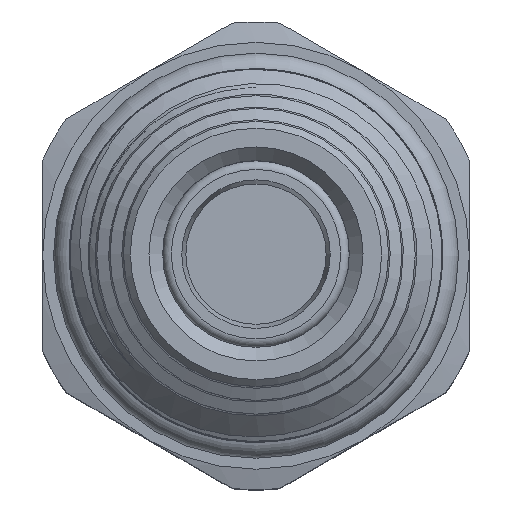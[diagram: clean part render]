
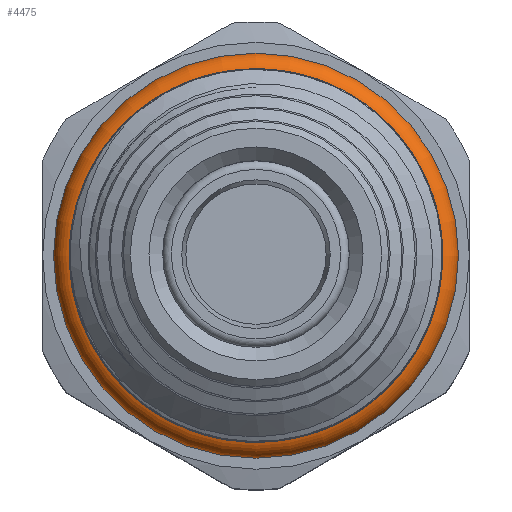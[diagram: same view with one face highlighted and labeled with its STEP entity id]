
A CAD part, top view. The second image highlights one B-rep face of the part: STEP entity #4475.
In plain terms, the highlighted toroidal (fillet/blend) face has major radius 10.82 mm and minor radius 1.232 mm.
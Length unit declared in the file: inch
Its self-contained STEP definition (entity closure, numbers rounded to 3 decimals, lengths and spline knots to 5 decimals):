
#58=TOROIDAL_SURFACE('',#4804,0.426,0.0485);
#296=CIRCLE('',#4708,0.38625);
#336=CIRCLE('',#4803,0.426);
#337=CIRCLE('',#4805,0.0485);
#603=FACE_OUTER_BOUND('',#874,.T.);
#874=EDGE_LOOP('',(#3440,#3441,#3442,#3443));
#1723=VERTEX_POINT('',#8341);
#1726=VERTEX_POINT('',#8348);
#2203=EDGE_CURVE('',#1726,#1726,#296,.T.);
#2436=EDGE_CURVE('',#1723,#1723,#336,.T.);
#2437=EDGE_CURVE('',#1723,#1726,#337,.T.);
#3440=ORIENTED_EDGE('',*,*,#2436,.T.);
#3441=ORIENTED_EDGE('',*,*,#2437,.T.);
#3442=ORIENTED_EDGE('',*,*,#2203,.F.);
#3443=ORIENTED_EDGE('',*,*,#2437,.F.);
#4475=ADVANCED_FACE('',(#603),#58,.T.);
#4708=AXIS2_PLACEMENT_3D('',#8350,#5272,#5273);
#4803=AXIS2_PLACEMENT_3D('',#16412,#5505,#5506);
#4804=AXIS2_PLACEMENT_3D('',#16413,#5507,#5508);
#4805=AXIS2_PLACEMENT_3D('',#16414,#5509,#5510);
#5272=DIRECTION('center_axis',(0.,0.,1.));
#5273=DIRECTION('ref_axis',(-1.,0.,0.));
#5505=DIRECTION('center_axis',(0.,0.,
1.));
#5506=DIRECTION('ref_axis',(-1.,0.,0.));
#5507=DIRECTION('center_axis',(0.,0.,
-1.));
#5508=DIRECTION('ref_axis',(-1.,0.,0.));
#5509=DIRECTION('center_axis',(0.,-1.,0.));
#5510=DIRECTION('ref_axis',(1.,0.,0.));
#8341=CARTESIAN_POINT('',(0.426,0.,0.644));
#8348=CARTESIAN_POINT('',(0.38625,0.,0.72029));
#8350=CARTESIAN_POINT('Origin',(0.,0.,
0.72029));
#16412=CARTESIAN_POINT('Origin',(0.,0.,
0.644));
#16413=CARTESIAN_POINT('Origin',(0.,0.,
0.6925));
#16414=CARTESIAN_POINT('Origin',(0.426,0.,0.6925));
